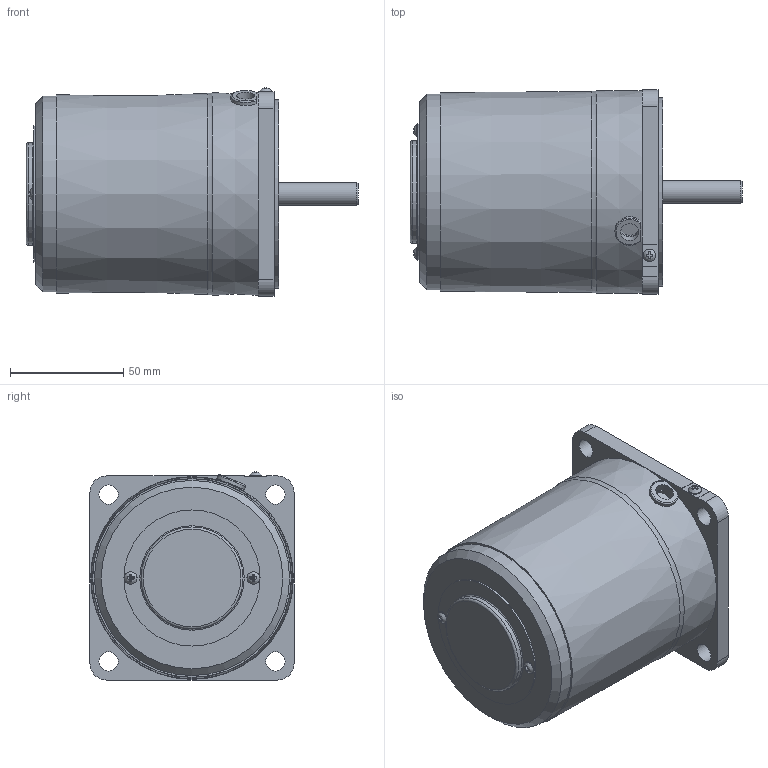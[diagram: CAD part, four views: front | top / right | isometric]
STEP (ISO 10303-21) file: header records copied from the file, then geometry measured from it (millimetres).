
FILE_DESCRIPTION(/* description */ (''),/* implementation_level */ '2;1');
FILE_NAME(/* name */ 'E:\도면작업\2016\0704) 미주향 SG 도면\3D MOTOR\SG6R\SG9R40S\SG9R40S_.stp',/* time_stamp */ '2016-12-12T16:34:48+09:00',/* author */ ('jy-jung'),/* organization */ (''),/* preprocessor_version */ 'ST-DEVELOPER v15.6',/* originating_system */ 'Autodesk Inventor 2015',/* authorisation */ '');
FILE_SCHEMA (('AUTOMOTIVE_DESIGN { 1 0 10303 214 3 1 1 }'));
Length unit declared in the file: millimetre
Products named in the file (1): 부품5
Bounding box: 146.3 x 90 x 91.76 mm (x, y, z)
Volume: 650885.6 mm3; surface area: 53578.6 mm2
Topology: 1 solids, 5 shells, 148 faces, 374 edges, 250 vertices
Faces by surface type: plane 95, cylinder 36, torus 10, cone 4, bspline 3
Full cylindrical faces by diameter (mm): 3 x2, 3.5 x2, 5.6 x3, 8 x1, 8.5 x4, 10 x2, 40 x1, 43 x1, 45 x1, 60 x1, 83 x1, 86 x1
Entity records: 4658 total; most frequent: CARTESIAN_POINT 1081, DIRECTION 676, ORIENTED_EDGE 660, EDGE_CURVE 330, AXIS2_PLACEMENT_3D 247, VERTEX_POINT 240, EDGE_LOOP 210, LINE 182
